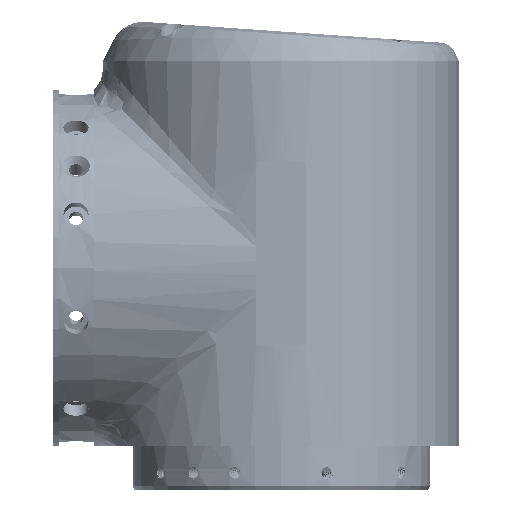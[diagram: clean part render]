
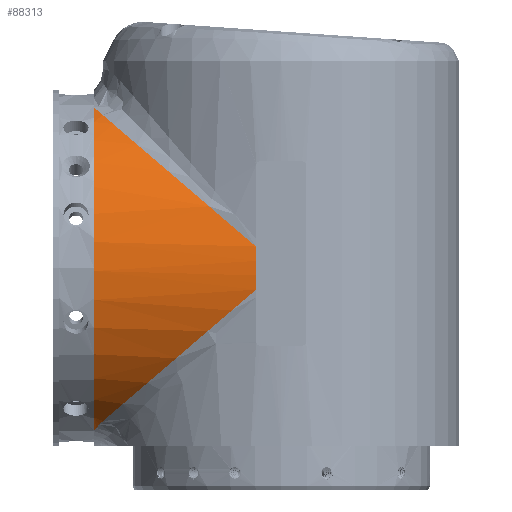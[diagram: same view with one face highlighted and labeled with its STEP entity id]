
A CAD part, left-side view. The second image highlights one B-rep face of the part: STEP entity #88313.
In plain terms, the highlighted cylindrical face has radius 42.5 mm (diameter 85 mm), a partial arc.
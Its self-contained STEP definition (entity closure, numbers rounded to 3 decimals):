
#6956 = CARTESIAN_POINT ( 'NONE',  ( -42.187, 6., 37.348 ) ) ;
#7742 = CYLINDRICAL_SURFACE ( 'NONE', #23280, 42.5 ) ;
#8812 = DIRECTION ( 'NONE',  ( 0., 0., 1. ) ) ;
#11465 = CARTESIAN_POINT ( 'NONE',  ( -18.257, 44.7, 80.879 ) ) ;
#19088 = ORIENTED_EDGE ( 'NONE', *, *, #91839, .T. ) ;
#23010 = VERTEX_POINT ( 'NONE', #204030 ) ;
#23280 = AXIS2_PLACEMENT_3D ( 'NONE', #158733, #156596, #8812 ) ;
#25066 = CARTESIAN_POINT ( 'NONE',  ( -18.257, 44.7, 80.879 ) ) ;
#32369 = CARTESIAN_POINT ( 'NONE',  ( -16.987, 44.7, 3.542 ) ) ;
#33436 = CARTESIAN_POINT ( 'NONE',  ( -21.788, 42.5, 6.01 ) ) ;
#37571 = CARTESIAN_POINT ( 'NONE',  ( -40.566, 21.461, 24.074 ) ) ;
#44442 = ORIENTED_EDGE ( 'NONE', *, *, #120900, .T. ) ;
#49232 = AXIS2_PLACEMENT_3D ( 'NONE', #179493, #59180, #93076 ) ;
#59180 = DIRECTION ( 'NONE',  ( 0., -1., 0. ) ) ;
#62481 = EDGE_CURVE ( 'NONE', #99997, #202000, #142189, .T. ) ;
#73965 = ORIENTED_EDGE ( 'NONE', *, *, #62481, .F. ) ;
#75744 = AXIS2_PLACEMENT_3D ( 'NONE', #152787, #151705, #102390 ) ;
#82931 = B_SPLINE_CURVE_WITH_KNOTS ( 'NONE', 3,
 ( #32369, #181247, #96972, #33436 ),
 .UNSPECIFIED., .F., .F.,
 ( 4, 4 ),
 ( 0.018, 0.024 ),
 .UNSPECIFIED. ) ;
#86052 = EDGE_CURVE ( 'NONE', #99997, #111348, #82931, .T. ) ;
#88313 = ADVANCED_FACE ( 'NONE', ( #91963 ), #7742, .T. ) ;
#91839 = EDGE_CURVE ( 'NONE', #111348, #192308, #161501, .T. ) ;
#91963 = FACE_OUTER_BOUND ( 'NONE', #162806, .T. ) ;
#93076 = DIRECTION ( 'NONE',  ( 0., 0., 1. ) ) ;
#96972 = CARTESIAN_POINT ( 'NONE',  ( -20.336, 43.51, 5.143 ) ) ;
#99672 = CARTESIAN_POINT ( 'NONE',  ( -21.788, 42.5, 6.01 ) ) ;
#99997 = VERTEX_POINT ( 'NONE', #209584 ) ;
#102390 = DIRECTION ( 'NONE',  ( 0., 0., 1. ) ) ;
#111348 = VERTEX_POINT ( 'NONE', #99672 ) ;
#120900 = EDGE_CURVE ( 'NONE', #23010, #202000, #212394, .T. ) ;
#121430 = CARTESIAN_POINT ( 'NONE',  ( -31.69, 37.257, 74.489 ) ) ;
#121883 = CARTESIAN_POINT ( 'NONE',  ( -33.27, 34.515, 12.866 ) ) ;
#122224 = CIRCLE ( 'NONE', #49232, 42.5 ) ;
#138540 = EDGE_CURVE ( 'NONE', #23010, #192308, #122224, .T. ) ;
#138956 = CARTESIAN_POINT ( 'NONE',  ( -40.384, 23.198, 62.417 ) ) ;
#142189 = CIRCLE ( 'NONE', #75744, 42.5 ) ;
#151705 = DIRECTION ( 'NONE',  ( 0., 1., 0. ) ) ;
#152787 = CARTESIAN_POINT ( 'NONE',  ( 0., 44.7, 42.5 ) ) ;
#156596 = DIRECTION ( 'NONE',  ( 0., 1., 0. ) ) ;
#158733 = CARTESIAN_POINT ( 'NONE',  ( 0., -42.501, 42.5 ) ) ;
#161501 =( BOUNDED_CURVE ( )  B_SPLINE_CURVE ( 3, ( #166771, #121883, #37571, #203941 ),
 .UNSPECIFIED., .F., .F. ) 
 B_SPLINE_CURVE_WITH_KNOTS ( ( 4, 4 ),
 ( 0.538, 1.449 ),
 .UNSPECIFIED. ) 
 CURVE ( )  GEOMETRIC_REPRESENTATION_ITEM ( )  RATIONAL_B_SPLINE_CURVE ( ( 1., 0.932, 0.932, 1. ) ) 
 REPRESENTATION_ITEM ( '' )  );
#162806 = EDGE_LOOP ( 'NONE', ( #216568, #44442, #73965, #199398, #19088 ) ) ;
#166771 = CARTESIAN_POINT ( 'NONE',  ( -21.788, 42.5, 6.01 ) ) ;
#179493 = CARTESIAN_POINT ( 'NONE',  ( 0., 6., 42.5 ) ) ;
#181247 = CARTESIAN_POINT ( 'NONE',  ( -18.738, 44.235, 4.306 ) ) ;
#189268 = CARTESIAN_POINT ( 'NONE',  ( -42.187, 6., 47.652 ) ) ;
#192308 = VERTEX_POINT ( 'NONE', #6956 ) ;
#199398 = ORIENTED_EDGE ( 'NONE', *, *, #86052, .T. ) ;
#202000 = VERTEX_POINT ( 'NONE', #11465 ) ;
#203941 = CARTESIAN_POINT ( 'NONE',  ( -42.187, 6., 37.348 ) ) ;
#204030 = CARTESIAN_POINT ( 'NONE',  ( -42.187, 6., 47.652 ) ) ;
#209584 = CARTESIAN_POINT ( 'NONE',  ( -16.987, 44.7, 3.542 ) ) ;
#212394 =( BOUNDED_CURVE ( )  B_SPLINE_CURVE ( 3, ( #189268, #138956, #121430, #25066 ),
 .UNSPECIFIED., .F., .F. ) 
 B_SPLINE_CURVE_WITH_KNOTS ( ( 4, 4 ),
 ( 4.834, 5.839 ),
 .UNSPECIFIED. ) 
 CURVE ( )  GEOMETRIC_REPRESENTATION_ITEM ( )  RATIONAL_B_SPLINE_CURVE ( ( 1., 0.918, 0.918, 1. ) ) 
 REPRESENTATION_ITEM ( '' )  );
#216568 = ORIENTED_EDGE ( 'NONE', *, *, #138540, .F. ) ;
